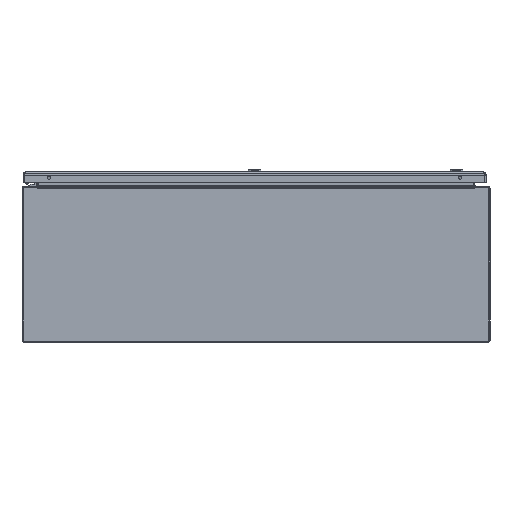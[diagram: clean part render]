
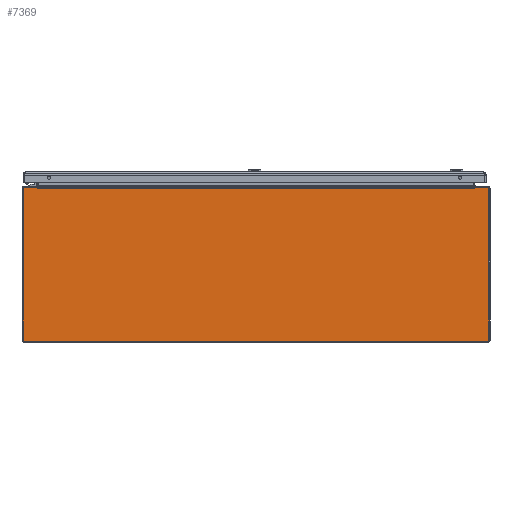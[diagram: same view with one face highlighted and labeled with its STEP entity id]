
A CAD part, front view. The second image highlights one B-rep face of the part: STEP entity #7369.
In plain terms, the highlighted planar face has unit normal (0, -1, 0).
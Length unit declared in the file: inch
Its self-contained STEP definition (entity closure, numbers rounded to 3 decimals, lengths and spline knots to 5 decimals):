
#6466=CARTESIAN_POINT('',(-17.857,0.,5.881));
#6467=DIRECTION('',(0.,-1.,0.));
#6468=DIRECTION('',(0.,0.,1.));
#6469=AXIS2_PLACEMENT_3D('',#6466,#6467,#6468);
#6471=DIRECTION('',(-1.,0.,0.));
#6472=VECTOR('',#6471,0.99242);
#6473=CARTESIAN_POINT('',(-16.86458,0.,5.961));
#6474=LINE('',#6473,#6472);
#6475=DIRECTION('',(0.174,0.,-0.985));
#6476=VECTOR('',#6475,0.12084);
#6477=CARTESIAN_POINT('',(-16.86458,0.,5.961));
#6478=LINE('',#6477,#6476);
#6479=DIRECTION('',(-1.,0.,0.));
#6480=VECTOR('',#6479,0.0156);
#6481=CARTESIAN_POINT('',(-16.828,0.,5.842));
#6482=LINE('',#6481,#6480);
#6483=DIRECTION('',(1.,0.,0.));
#6484=VECTOR('',#6483,0.0156);
#6485=CARTESIAN_POINT('',(16.828,0.,5.842));
#6486=LINE('',#6485,#6484);
#6487=DIRECTION('',(-0.174,0.,-0.985));
#6488=VECTOR('',#6487,0.12084);
#6489=CARTESIAN_POINT('',(16.86458,0.,5.961));
#6490=LINE('',#6489,#6488);
#6491=DIRECTION('',(-1.,0.,0.));
#6492=VECTOR('',#6491,0.99242);
#6493=CARTESIAN_POINT('',(17.857,0.,5.961));
#6494=LINE('',#6493,#6492);
#6495=CARTESIAN_POINT('',(17.857,0.,5.881));
#6496=DIRECTION('',(0.,-1.,0.));
#6497=DIRECTION('',(1.,0.,0.));
#6498=AXIS2_PLACEMENT_3D('',#6495,#6496,#6497);
#6500=DIRECTION('',(0.,0.,1.));
#6501=VECTOR('',#6500,11.738);
#6502=CARTESIAN_POINT('',(17.937,0.,-5.857));
#6503=LINE('',#6502,#6501);
#6504=CARTESIAN_POINT('',(17.857,0.,-5.857));
#6505=DIRECTION('',(0.,-1.,0.));
#6506=DIRECTION('',(0.,0.,-1.));
#6507=AXIS2_PLACEMENT_3D('',#6504,#6505,#6506);
#6509=DIRECTION('',(1.,0.,0.));
#6510=VECTOR('',#6509,35.714);
#6511=CARTESIAN_POINT('',(-17.857,0.,-5.937));
#6512=LINE('',#6511,#6510);
#6513=CARTESIAN_POINT('',(-17.857,0.,-5.857));
#6514=DIRECTION('',(0.,-1.,0.));
#6515=DIRECTION('',(-1.,0.,0.));
#6516=AXIS2_PLACEMENT_3D('',#6513,#6514,#6515);
#6518=DIRECTION('',(0.,0.,-1.));
#6519=VECTOR('',#6518,11.738);
#6520=CARTESIAN_POINT('',(-17.937,0.,5.881));
#6521=LINE('',#6520,#6519);
#6685=DIRECTION('',(1.,0.,0.));
#6686=VECTOR('',#6685,33.656);
#6687=CARTESIAN_POINT('',(-16.828,0.,5.842));
#6688=LINE('',#6687,#6686);
#7158=CARTESIAN_POINT('',(16.828,0.,5.842));
#7159=CARTESIAN_POINT('',(16.8436,0.,5.842));
#7160=VERTEX_POINT('',#7158);
#7161=VERTEX_POINT('',#7159);
#7162=CARTESIAN_POINT('',(16.86458,0.,5.961));
#7163=VERTEX_POINT('',#7162);
#7170=CARTESIAN_POINT('',(-16.828,0.,5.842));
#7171=CARTESIAN_POINT('',(-16.8436,0.,5.842));
#7172=VERTEX_POINT('',#7170);
#7173=VERTEX_POINT('',#7171);
#7174=CARTESIAN_POINT('',(-16.86458,0.,5.961));
#7175=VERTEX_POINT('',#7174);
#7234=CARTESIAN_POINT('',(-17.857,0.,5.961));
#7235=CARTESIAN_POINT('',(-17.937,0.,5.881));
#7236=VERTEX_POINT('',#7234);
#7237=VERTEX_POINT('',#7235);
#7242=CARTESIAN_POINT('',(-17.937,0.,-5.857));
#7243=CARTESIAN_POINT('',(-17.857,0.,-5.937));
#7244=VERTEX_POINT('',#7242);
#7245=VERTEX_POINT('',#7243);
#7250=CARTESIAN_POINT('',(17.857,0.,-5.937));
#7251=CARTESIAN_POINT('',(17.937,0.,-5.857));
#7252=VERTEX_POINT('',#7250);
#7253=VERTEX_POINT('',#7251);
#7258=CARTESIAN_POINT('',(17.937,0.,5.881));
#7259=CARTESIAN_POINT('',(17.857,0.,5.961));
#7260=VERTEX_POINT('',#7258);
#7261=VERTEX_POINT('',#7259);
#7334=CARTESIAN_POINT('',(0.,0.,0.));
#7335=DIRECTION('',(0.,-1.,0.));
#7336=DIRECTION('',(-1.,0.,0.));
#7337=AXIS2_PLACEMENT_3D('',#7334,#7335,#7336);
#7338=PLANE('',#7337);
#7340=ORIENTED_EDGE('',*,*,#7339,.F.);
#7342=ORIENTED_EDGE('',*,*,#7341,.F.);
#7344=ORIENTED_EDGE('',*,*,#7343,.T.);
#7346=ORIENTED_EDGE('',*,*,#7345,.F.);
#7348=ORIENTED_EDGE('',*,*,#7347,.T.);
#7350=ORIENTED_EDGE('',*,*,#7349,.T.);
#7352=ORIENTED_EDGE('',*,*,#7351,.F.);
#7354=ORIENTED_EDGE('',*,*,#7353,.F.);
#7356=ORIENTED_EDGE('',*,*,#7355,.F.);
#7358=ORIENTED_EDGE('',*,*,#7357,.F.);
#7360=ORIENTED_EDGE('',*,*,#7359,.F.);
#7362=ORIENTED_EDGE('',*,*,#7361,.F.);
#7364=ORIENTED_EDGE('',*,*,#7363,.F.);
#7366=ORIENTED_EDGE('',*,*,#7365,.F.);
#7367=EDGE_LOOP('',(#7340,#7342,#7344,#7346,#7348,#7350,#7352,#7354,#7356,#7358,
#7360,#7362,#7364,#7366));
#7368=FACE_OUTER_BOUND('',#7367,.F.);
#7369=ADVANCED_FACE('',(#7368),#7338,.T.);
#6470=CIRCLE('',#6469,0.08);
#6499=CIRCLE('',#6498,0.08);
#6508=CIRCLE('',#6507,0.08);
#6517=CIRCLE('',#6516,0.08);
#7339=EDGE_CURVE('',#7236,#7237,#6470,.T.);
#7341=EDGE_CURVE('',#7175,#7236,#6474,.T.);
#7343=EDGE_CURVE('',#7175,#7173,#6478,.T.);
#7345=EDGE_CURVE('',#7172,#7173,#6482,.T.);
#7347=EDGE_CURVE('',#7172,#7160,#6688,.T.);
#7349=EDGE_CURVE('',#7160,#7161,#6486,.T.);
#7351=EDGE_CURVE('',#7163,#7161,#6490,.T.);
#7353=EDGE_CURVE('',#7261,#7163,#6494,.T.);
#7355=EDGE_CURVE('',#7260,#7261,#6499,.T.);
#7357=EDGE_CURVE('',#7253,#7260,#6503,.T.);
#7359=EDGE_CURVE('',#7252,#7253,#6508,.T.);
#7361=EDGE_CURVE('',#7245,#7252,#6512,.T.);
#7363=EDGE_CURVE('',#7244,#7245,#6517,.T.);
#7365=EDGE_CURVE('',#7237,#7244,#6521,.T.);
